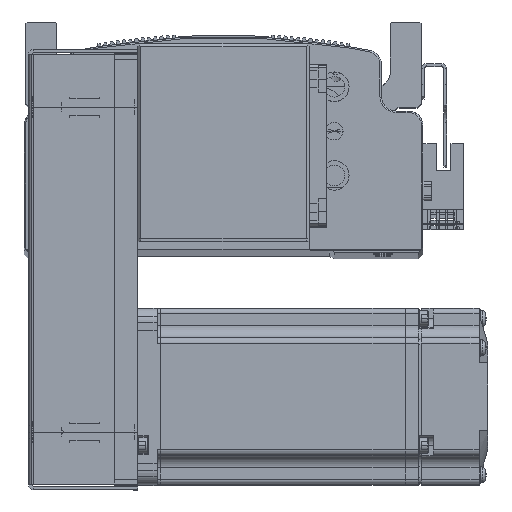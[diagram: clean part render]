
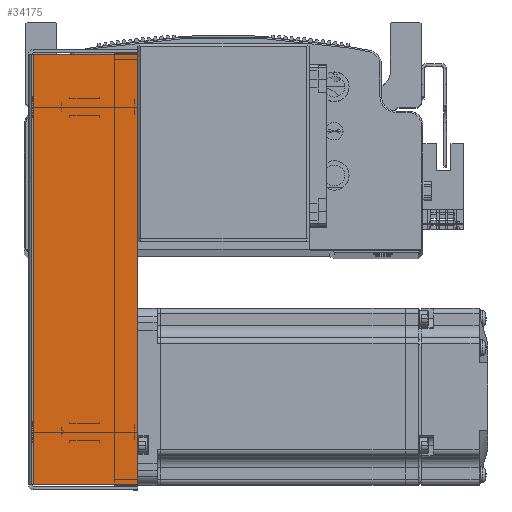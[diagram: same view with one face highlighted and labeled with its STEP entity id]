
A CAD part, top view. The second image highlights one B-rep face of the part: STEP entity #34175.
In plain terms, the highlighted planar face has unit normal (0, 0, 1) as drawn and (0, 0, -1) by its records, which use the part's own axes.
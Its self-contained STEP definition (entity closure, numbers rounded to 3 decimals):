
#3895 = ORIENTED_EDGE ( 'NONE', *, *, #19333, .F. ) ;
#3898 = ORIENTED_EDGE ( 'NONE', *, *, #19351, .T. ) ;
#3925 = ORIENTED_EDGE ( 'NONE', *, *, #19314, .T. ) ;
#3933 = ORIENTED_EDGE ( 'NONE', *, *, #19245, .F. ) ;
#10751 = DIRECTION ( 'NONE',  ( 1., 0., 0. ) ) ;
#10879 = CARTESIAN_POINT ( 'NONE',  ( 74.5, 0.737, -34.5 ) ) ;
#11066 = CARTESIAN_POINT ( 'NONE',  ( -72.793, 0., -34.5 ) ) ;
#11095 = DIRECTION ( 'NONE',  ( 0., 1., 0. ) ) ;
#13050 = CARTESIAN_POINT ( 'NONE',  ( 0., 36., -34.5 ) ) ;
#13060 = DIRECTION ( 'NONE',  ( 1., 0., 0. ) ) ;
#17787 = CARTESIAN_POINT ( 'NONE',  ( 72.793, 0., -34.5 ) ) ;
#17807 = DIRECTION ( 'NONE',  ( 0., 1., 0. ) ) ;
#19245 = EDGE_CURVE ( 'NONE', #23648, #23594, #69635, .T. ) ;
#19314 = EDGE_CURVE ( 'NONE', #23704, #23594, #69742, .T. ) ;
#19333 = EDGE_CURVE ( 'NONE', #23634, #23648, #68620, .T. ) ;
#19351 = EDGE_CURVE ( 'NONE', #23634, #23704, #68629, .T. ) ;
#23594 = VERTEX_POINT ( 'NONE', #58172 ) ;
#23634 = VERTEX_POINT ( 'NONE', #58311 ) ;
#23648 = VERTEX_POINT ( 'NONE', #58264 ) ;
#23704 = VERTEX_POINT ( 'NONE', #58307 ) ;
#34175 = ADVANCED_FACE ( 'NONE', ( #61899 ), #59397, .F. ) ;
#52479 = EDGE_LOOP ( 'NONE', ( #3895, #3898, #3925, #3933 ) ) ;
#58172 = CARTESIAN_POINT ( 'NONE',  ( 72.793, 36., -34.5 ) ) ;
#58264 = CARTESIAN_POINT ( 'NONE',  ( 72.793, 0.737, -34.5 ) ) ;
#58307 = CARTESIAN_POINT ( 'NONE',  ( -72.793, 36., -34.5 ) ) ;
#58311 = CARTESIAN_POINT ( 'NONE',  ( -72.793, 0.737, -34.5 ) ) ;
#59397 = PLANE ( 'NONE',  #70234 ) ;
#59407 = DIRECTION ( 'NONE',  ( 0., 0., 1. ) ) ;
#59419 = CARTESIAN_POINT ( 'NONE',  ( 0., 0., -34.5 ) ) ;
#59434 = DIRECTION ( 'NONE',  ( 0., -1., 0. ) ) ;
#61899 = FACE_OUTER_BOUND ( 'NONE', #52479, .T. ) ;
#68620 = LINE ( 'NONE', #10879, #68622 ) ;
#68622 = VECTOR ( 'NONE', #10751, 1000. ) ;
#68629 = LINE ( 'NONE', #11066, #68631 ) ;
#68631 = VECTOR ( 'NONE', #11095, 1000. ) ;
#69600 = VECTOR ( 'NONE', #17807, 1000. ) ;
#69635 = LINE ( 'NONE', #17787, #69600 ) ;
#69742 = LINE ( 'NONE', #13050, #69770 ) ;
#69770 = VECTOR ( 'NONE', #13060, 1000. ) ;
#70234 = AXIS2_PLACEMENT_3D ( 'NONE', #59419, #59407, #59434 ) ;
